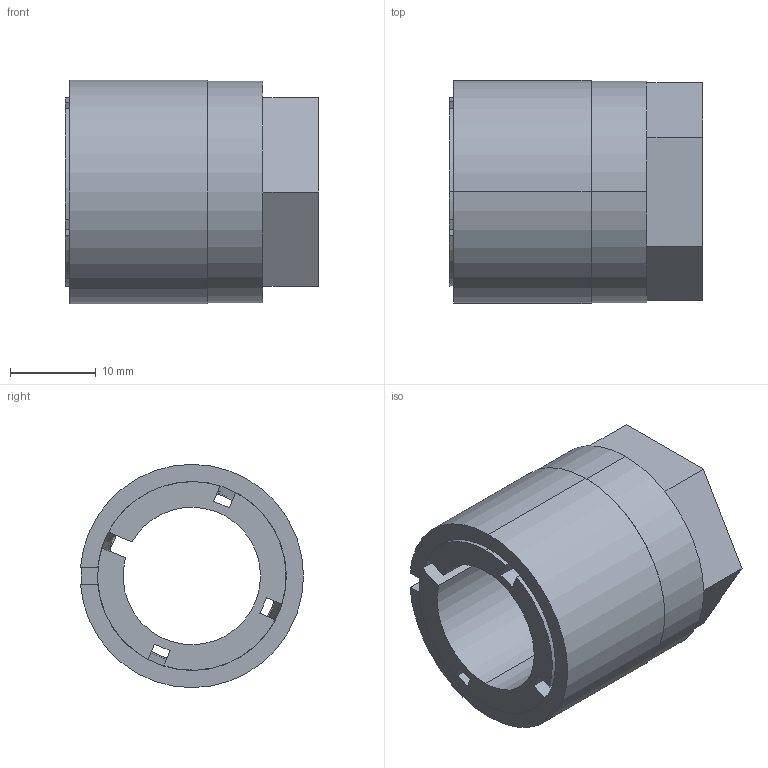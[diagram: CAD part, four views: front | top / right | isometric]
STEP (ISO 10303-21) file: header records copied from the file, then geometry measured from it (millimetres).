
FILE_DESCRIPTION (( 'STEP AP203' ), '1' );
FILE_NAME ('KBS 56 - 16 x 26.STEP', '2015-07-07T20:25:18', ( '' ), ( '' ), 'SwSTEP 2.0', 'SolidWorks 2010', '' );
FILE_SCHEMA (( 'CONFIG_CONTROL_DESIGN' ));
Length unit declared in the file: millimetre
Products named in the file (1): KBS 56 - 16 x 26
Bounding box: 29.5 x 25.96 x 26 mm (x, y, z)
Volume: 8323.7 mm3; surface area: 8830.8 mm2
Topology: 3 solids, 3 shells, 58 faces, 152 edges, 101 vertices
Faces by surface type: plane 30, cylinder 20, cone 8
Entity records: 1892 total; most frequent: CARTESIAN_POINT 348, DIRECTION 311, ORIENTED_EDGE 304, EDGE_CURVE 152, AXIS2_PLACEMENT_3D 110, VERTEX_POINT 101, VECTOR 91, LINE 91
